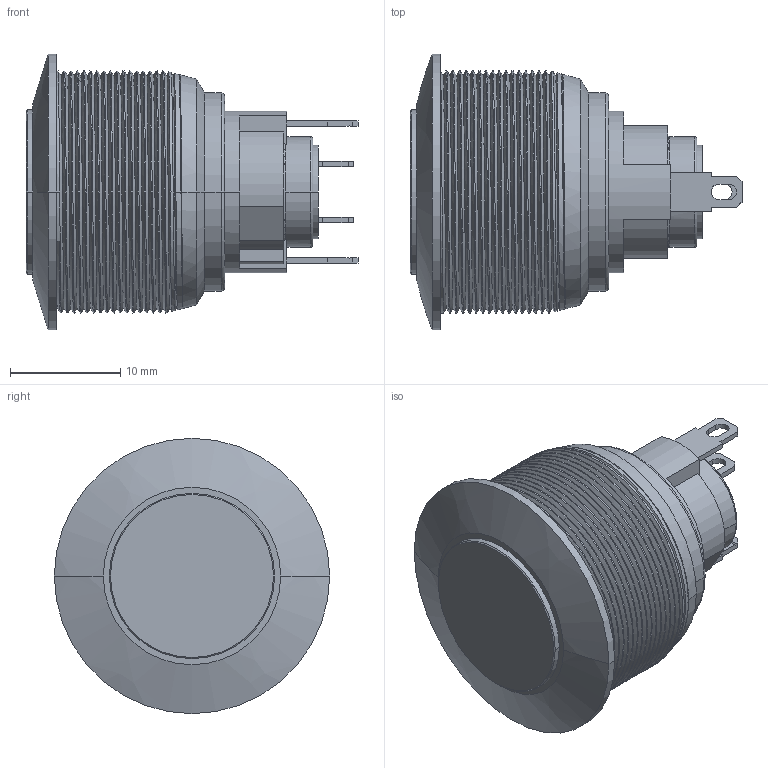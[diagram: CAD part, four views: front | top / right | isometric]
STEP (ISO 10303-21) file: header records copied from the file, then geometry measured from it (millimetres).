
FILE_DESCRIPTION((''),'2;1');
FILE_NAME('AV03100EA200_SW0001','2010-09-29T',('jlgachon'),(''),'PRO/ENGINEER BY PARAMETRIC TECHNOLOGY CORPORATION, 2009440','PRO/ENGINEER BY PARAMETRIC TECHNOLOGY CORPORATION, 2009440','');
FILE_SCHEMA(('CONFIG_CONTROL_DESIGN'));
Length unit declared in the file: millimetre
Products named in the file (1): AV03100EA200_SW0001
Bounding box: 30.15 x 25 x 25 mm (x, y, z)
Surface area: 5618.6 mm2 (no closed solid volume)
Topology: 0 solids, 11 shells, 413 faces, 1300 edges, 871 vertices
Faces by surface type: plane 249, cylinder 113, cone 21, bspline 14, torus 12, sphere 4
Entity records: 22179 total; most frequent: CARTESIAN_POINT 10804, ORIENTED_EDGE 2321, DIRECTION 2244, EDGE_CURVE 1296, VECTOR 894, LINE 894, VERTEX_POINT 871, AXIS2_PLACEMENT_3D 675
